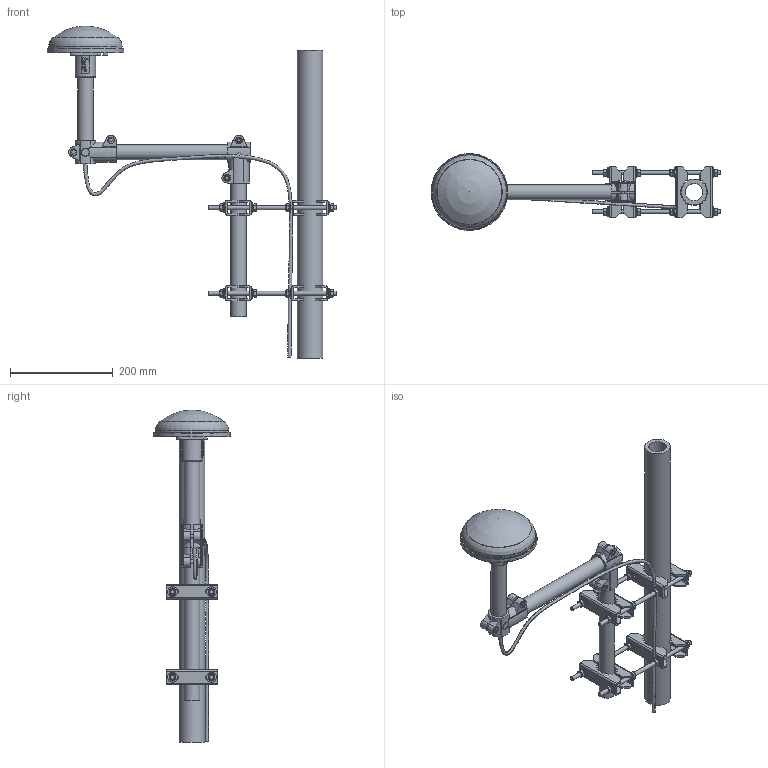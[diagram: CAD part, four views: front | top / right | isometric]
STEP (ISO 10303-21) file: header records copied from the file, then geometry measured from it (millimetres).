
FILE_DESCRIPTION(('FreeCAD Model'),'2;1');
FILE_NAME('Open CASCADE Shape Model','2022-10-12T09:03:51',(''),(''), 'Open CASCADE STEP processor 7.6','FreeCAD','Unknown');
FILE_SCHEMA(('AUTOMOTIVE_DESIGN { 1 0 10303 214 1 1 1 1 }'));
Length unit declared in the file: millimetre
Products named in the file (80): FG4490M01_Motagesatz_fertig_v0103; Body027; Body028; Body029; 113000000200#ID-Winkel_W; _ET-113000000200#ID-Winkel_W; _X094045#_28; _X094045#_029; _M8DIN985Stahl; _M8DIN985Stahl001; 113000000200#ID-Winkel_W001; _ET-113000000200#ID-Winkel_W001; _X094045#_030; _X094045#_031; _M8DIN985Stahl002; _M8DIN985Stahl003; Mastbefestigung_v01012; Body036; Body037; Part004002; MutterRE009; MutterLI009; ScheibeRE009; ScheibeLI009; Part005002; Body038; Body039; Part006002; ScheibeRE010; ScheibeLI010; MutterLI010; MutterRE010; Part007003; MutterRE011; MutterLI011; ScheibeRE011; ScheibeLI011; Part008002; Body040; Body041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
Assembly tree (79 placements, depth 4):
  FG4490M01_Motagesatz_fertig_v0103
    Body027
    Body028
    Body029
    113000000200#ID-Winkel_W
      _ET-113000000200#ID-Winkel_W
      _X094045#_28
      _X094045#_029
      _M8DIN985Stahl
      _M8DIN985Stahl001
    113000000200#ID-Winkel_W001
      _ET-113000000200#ID-Winkel_W001
      _X094045#_030
      _X094045#_031
      _M8DIN985Stahl002
      _M8DIN985Stahl003
    Mastbefestigung_v01012
      Body036
      Body037
      Part004002
        MutterRE009
        MutterLI009
        ScheibeRE009
        ScheibeLI009
      Part005002
        Body038
        Body039
      Part006002
        ScheibeRE010
        ScheibeLI010
        MutterLI010
        MutterRE010
      Part007003
        MutterRE011
        MutterLI011
        ScheibeRE011
        ScheibeLI011
      Part008002
        Body040
        Body041
      Part008003
        ScheibeLI012
        ScheibeRE012
        MutterRE012
        MutterLI012
    Mastbefestigung_v0101001
      Body042
      Body043
      Part004003
        MutterRE013
        MutterLI013
        ScheibeRE013
        ScheibeLI013
      Part005003
        Body044
        Body045
      Part006003
        ScheibeRE014
        ScheibeLI014
        MutterLI014
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Bounding box: 564.52 x 149.03 x 647 mm (x, y, z)
Volume: 1358214.3 mm3; surface area: 633810.1 mm2
Topology: 61 solids, 62 shells, 1340 faces, 3440 edges, 2257 vertices
Faces by surface type: plane 839, cylinder 287, cone 96, extrusion 84, torus 28, bspline 4, sphere 2
Full cylindrical faces by diameter (mm): 3 x4, 3.3 x1, 6 x2, 6.647 x4, 7 x8, 8 x32, 8.5 x16, 9.5 x1, 10 x1, 13 x4, 15 x2, 18.8 x16, 20.5 x1, 23.5 x1, 24 x3, 30 x3, 30.4 x1, 34 x1, 50 x1, 139.6 x1, 143.6 x1, 145 x1, 145.6 x1, 149.6 x1
Entity records: 99760 total; most frequent: CARTESIAN_POINT 29189, DIRECTION 12678, VECTOR 7467, LINE 7383, ORIENTED_EDGE 6874, PCURVE 6874, DEFINITIONAL_REPRESENTATION 6874, EDGE_CURVE 3438
